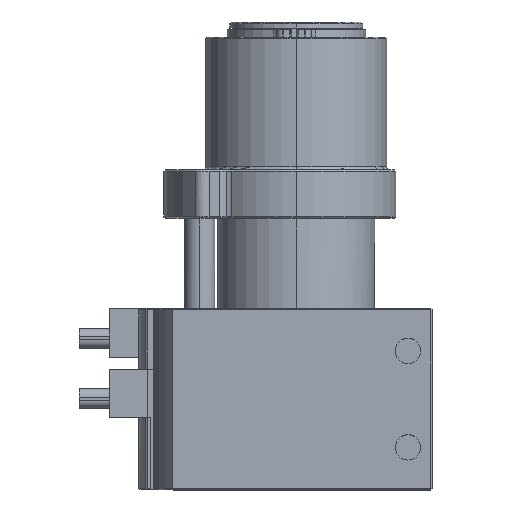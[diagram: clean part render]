
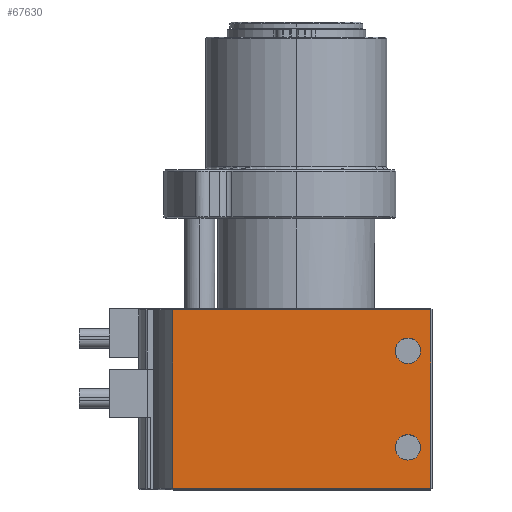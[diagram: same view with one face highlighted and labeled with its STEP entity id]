
A CAD part, top view. The second image highlights one B-rep face of the part: STEP entity #67630.
In plain terms, the highlighted planar face has unit normal (0, 0, 1).
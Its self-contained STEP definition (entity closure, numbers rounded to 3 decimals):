
#1584 = DIRECTION ( 'NONE',  ( 0., 0., -1. ) ) ;
#2261 = LINE ( 'NONE', #33785, #30383 ) ;
#5092 = VECTOR ( 'NONE', #8073, 1000. ) ;
#5943 = VERTEX_POINT ( 'NONE', #14902 ) ;
#6847 = LINE ( 'NONE', #36050, #5092 ) ;
#7034 = CARTESIAN_POINT ( 'NONE',  ( 13.862, 10.25, 52.612 ) ) ;
#8073 = DIRECTION ( 'NONE',  ( 1., 0., 0. ) ) ;
#8807 = ORIENTED_EDGE ( 'NONE', *, *, #47886, .T. ) ;
#9912 = CARTESIAN_POINT ( 'NONE',  ( 13.862, 14.45, 52.612 ) ) ;
#10797 = CIRCLE ( 'NONE', #31099, 2.1 ) ;
#12139 = CARTESIAN_POINT ( 'NONE',  ( -3.738, -10.45, 52.612 ) ) ;
#12438 = DIRECTION ( 'NONE',  ( 0., 0., -1. ) ) ;
#14902 = CARTESIAN_POINT ( 'NONE',  ( 17.662, -10.45, 52.612 ) ) ;
#15487 = AXIS2_PLACEMENT_3D ( 'NONE', #46072, #12438, #51685 ) ;
#16141 = DIRECTION ( 'NONE',  ( 0., -1., 0. ) ) ;
#16223 = AXIS2_PLACEMENT_3D ( 'NONE', #46924, #47174, #19982 ) ;
#17029 = CIRCLE ( 'NONE', #64563, 2.1 ) ;
#18878 = EDGE_CURVE ( 'NONE', #32981, #56226, #6847, .T. ) ;
#19101 = CARTESIAN_POINT ( 'NONE',  ( 17.662, 19.15, 52.612 ) ) ;
#19739 = FACE_BOUND ( 'NONE', #48214, .T. ) ;
#19834 = VERTEX_POINT ( 'NONE', #54636 ) ;
#19982 = DIRECTION ( 'NONE',  ( 0., -1., 0. ) ) ;
#20819 = ORIENTED_EDGE ( 'NONE', *, *, #63878, .T. ) ;
#24309 = EDGE_LOOP ( 'NONE', ( #42737, #66339 ) ) ;
#24338 = VERTEX_POINT ( 'NONE', #48106 ) ;
#26808 = CIRCLE ( 'NONE', #15487, 2.1 ) ;
#29210 = DIRECTION ( 'NONE',  ( 0., 0., -1. ) ) ;
#29253 = LINE ( 'NONE', #12139, #72272 ) ;
#30383 = VECTOR ( 'NONE', #34037, 1000. ) ;
#31099 = AXIS2_PLACEMENT_3D ( 'NONE', #35208, #1584, #40831 ) ;
#32059 = AXIS2_PLACEMENT_3D ( 'NONE', #62822, #29210, #68460 ) ;
#32415 = DIRECTION ( 'NONE',  ( 0., 0., -1. ) ) ;
#32686 = ORIENTED_EDGE ( 'NONE', *, *, #18878, .F. ) ;
#32981 = VERTEX_POINT ( 'NONE', #38243 ) ;
#33785 = CARTESIAN_POINT ( 'NONE',  ( 17.662, 4.35, 52.612 ) ) ;
#34037 = DIRECTION ( 'NONE',  ( 0., 1., 0. ) ) ;
#34940 = ORIENTED_EDGE ( 'NONE', *, *, #51187, .T. ) ;
#35208 = CARTESIAN_POINT ( 'NONE',  ( 13.862, 12.35, 52.612 ) ) ;
#36050 = CARTESIAN_POINT ( 'NONE',  ( -3.867, 19.15, 52.612 ) ) ;
#38061 = LINE ( 'NONE', #61045, #51200 ) ;
#38167 = FACE_BOUND ( 'NONE', #24309, .T. ) ;
#38243 = CARTESIAN_POINT ( 'NONE',  ( -25.138, 19.15, 52.612 ) ) ;
#39062 = CARTESIAN_POINT ( 'NONE',  ( -25.138, -10.45, 52.612 ) ) ;
#40831 = DIRECTION ( 'NONE',  ( 1., 0., 0. ) ) ;
#41229 = EDGE_CURVE ( 'NONE', #19834, #24338, #26808, .T. ) ;
#41538 = PLANE ( 'NONE',  #16223 ) ;
#41811 = EDGE_LOOP ( 'NONE', ( #20819, #32686, #34940, #8807 ) ) ;
#42737 = ORIENTED_EDGE ( 'NONE', *, *, #48321, .T. ) ;
#44761 = VERTEX_POINT ( 'NONE', #39062 ) ;
#46072 = CARTESIAN_POINT ( 'NONE',  ( 13.862, -3.65, 52.612 ) ) ;
#46924 = CARTESIAN_POINT ( 'NONE',  ( -25.138, 19.15, 52.612 ) ) ;
#47174 = DIRECTION ( 'NONE',  ( 0., 0., 1. ) ) ;
#47886 = EDGE_CURVE ( 'NONE', #44761, #5943, #29253, .T. ) ;
#48106 = CARTESIAN_POINT ( 'NONE',  ( 13.862, -5.75, 52.612 ) ) ;
#48214 = EDGE_LOOP ( 'NONE', ( #55523, #59614 ) ) ;
#48321 = EDGE_CURVE ( 'NONE', #65932, #72508, #10797, .T. ) ;
#49557 = FACE_OUTER_BOUND ( 'NONE', #41811, .T. ) ;
#50660 = EDGE_CURVE ( 'NONE', #24338, #19834, #60044, .T. ) ;
#51187 = EDGE_CURVE ( 'NONE', #32981, #44761, #38061, .T. ) ;
#51200 = VECTOR ( 'NONE', #16141, 1000. ) ;
#51685 = DIRECTION ( 'NONE',  ( 1., 0., 0. ) ) ;
#54636 = CARTESIAN_POINT ( 'NONE',  ( 13.862, -1.55, 52.612 ) ) ;
#55523 = ORIENTED_EDGE ( 'NONE', *, *, #41229, .T. ) ;
#56226 = VERTEX_POINT ( 'NONE', #19101 ) ;
#59614 = ORIENTED_EDGE ( 'NONE', *, *, #50660, .T. ) ;
#60044 = CIRCLE ( 'NONE', #32059, 2.1 ) ;
#61045 = CARTESIAN_POINT ( 'NONE',  ( -25.138, 4.35, 52.612 ) ) ;
#62822 = CARTESIAN_POINT ( 'NONE',  ( 13.862, -3.65, 52.612 ) ) ;
#63878 = EDGE_CURVE ( 'NONE', #5943, #56226, #2261, .T. ) ;
#64563 = AXIS2_PLACEMENT_3D ( 'NONE', #65995, #32415, #71652 ) ;
#65932 = VERTEX_POINT ( 'NONE', #9912 ) ;
#65995 = CARTESIAN_POINT ( 'NONE',  ( 13.862, 12.35, 52.612 ) ) ;
#66149 = DIRECTION ( 'NONE',  ( 1., 0., 0. ) ) ;
#66339 = ORIENTED_EDGE ( 'NONE', *, *, #69599, .T. ) ;
#67630 = ADVANCED_FACE ( 'NONE', ( #49557, #38167, #19739 ), #41538, .T. ) ;
#68460 = DIRECTION ( 'NONE',  ( 1., 0., 0. ) ) ;
#69599 = EDGE_CURVE ( 'NONE', #72508, #65932, #17029, .T. ) ;
#71652 = DIRECTION ( 'NONE',  ( 1., 0., 0. ) ) ;
#72272 = VECTOR ( 'NONE', #66149, 1000. ) ;
#72508 = VERTEX_POINT ( 'NONE', #7034 ) ;
